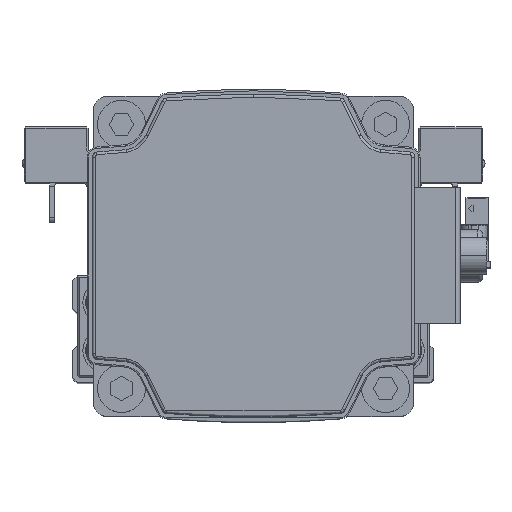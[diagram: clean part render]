
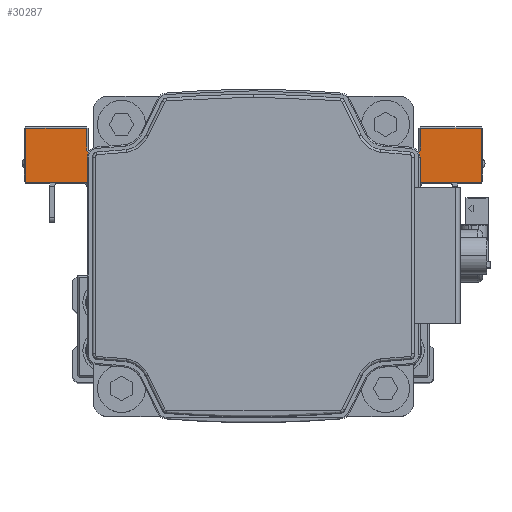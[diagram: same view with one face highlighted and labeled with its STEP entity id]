
A CAD part, top view. The second image highlights one B-rep face of the part: STEP entity #30287.
In plain terms, the highlighted planar face has unit normal (0, 0, 1) as drawn and (1, 0, 0) by its records, which use the part's own axes.
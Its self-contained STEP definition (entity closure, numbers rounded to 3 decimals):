
#102 = LINE ( 'NONE', #11761, #1827 ) ;
#753 = LINE ( 'NONE', #12408, #23281 ) ;
#791 = CARTESIAN_POINT ( 'NONE',  ( 25.5, 5.5, -17. ) ) ;
#990 = VERTEX_POINT ( 'NONE', #25991 ) ;
#1441 = VECTOR ( 'NONE', #35580, 1000. ) ;
#1827 = VECTOR ( 'NONE', #23399, 1000. ) ;
#2074 = DIRECTION ( 'NONE',  ( -1., 0., 0. ) ) ;
#2374 = CIRCLE ( 'NONE', #7272, 1.3 ) ;
#2646 = CARTESIAN_POINT ( 'NONE',  ( 25.5, 7.5, -15. ) ) ;
#2755 = CARTESIAN_POINT ( 'NONE',  ( 25.5, 7.5, 43. ) ) ;
#2804 = VERTEX_POINT ( 'NONE', #32855 ) ;
#3192 = VERTEX_POINT ( 'NONE', #4476 ) ;
#3206 = DIRECTION ( 'NONE',  ( 0., 0., -1. ) ) ;
#3332 = VERTEX_POINT ( 'NONE', #19944 ) ;
#3426 = CARTESIAN_POINT ( 'NONE',  ( 25.5, 17.7, 42.7 ) ) ;
#3746 = ORIENTED_EDGE ( 'NONE', *, *, #35170, .T. ) ;
#4098 = VERTEX_POINT ( 'NONE', #25708 ) ;
#4188 = ORIENTED_EDGE ( 'NONE', *, *, #12997, .T. ) ;
#4300 = ORIENTED_EDGE ( 'NONE', *, *, #22238, .F. ) ;
#4461 = AXIS2_PLACEMENT_3D ( 'NONE', #2646, #14301, #25926 ) ;
#4476 = CARTESIAN_POINT ( 'NONE',  ( 25.5, 17.7, -31.3 ) ) ;
#5105 = EDGE_CURVE ( 'NONE', #21484, #3192, #25002, .T. ) ;
#5158 = EDGE_CURVE ( 'NONE', #34535, #25210, #10830, .T. ) ;
#5199 = LINE ( 'NONE', #16845, #25664 ) ;
#5531 = EDGE_CURVE ( 'NONE', #35993, #990, #10786, .T. ) ;
#5885 = CARTESIAN_POINT ( 'NONE',  ( 25.5, 14., 31.3 ) ) ;
#6270 = EDGE_CURVE ( 'NONE', #3192, #3332, #12265, .T. ) ;
#6303 = EDGE_CURVE ( 'NONE', #2804, #19478, #16085, .T. ) ;
#6586 = EDGE_CURVE ( 'NONE', #21548, #21484, #37467, .T. ) ;
#6649 = LINE ( 'NONE', #18297, #32294 ) ;
#6751 = DIRECTION ( 'NONE',  ( -1., 0., 0. ) ) ;
#6757 = CARTESIAN_POINT ( 'NONE',  ( 25.5, -7.5, -15. ) ) ;
#7272 = AXIS2_PLACEMENT_3D ( 'NONE', #12946, #24568, #36254 ) ;
#7456 = CARTESIAN_POINT ( 'NONE',  ( 25.5, 17.7, -15. ) ) ;
#7764 = EDGE_CURVE ( 'NONE', #36918, #9062, #13361, .T. ) ;
#9062 = VERTEX_POINT ( 'NONE', #6757 ) ;
#9154 = EDGE_LOOP ( 'NONE', ( #3746, #9944, #13552, #36756, #35929, #32326, #31456, #16891, #14310, #31858, #17734, #4188, #26387, #20565, #4300, #30900 ) ) ;
#9502 = AXIS2_PLACEMENT_3D ( 'NONE', #32916, #6751, #18394 ) ;
#9944 = ORIENTED_EDGE ( 'NONE', *, *, #6586, .T. ) ;
#10511 = DIRECTION ( 'NONE',  ( 0., 0., 1. ) ) ;
#10786 = LINE ( 'NONE', #22432, #34042 ) ;
#10830 = CIRCLE ( 'NONE', #32197, 1.3 ) ;
#11268 = CARTESIAN_POINT ( 'NONE',  ( 25.5, 7.5, -42.7 ) ) ;
#11761 = CARTESIAN_POINT ( 'NONE',  ( 25.5, 7.5, -15. ) ) ;
#11845 = VECTOR ( 'NONE', #22902, 1000. ) ;
#12265 = LINE ( 'NONE', #23899, #1441 ) ;
#12408 = CARTESIAN_POINT ( 'NONE',  ( 25.5, 7.5, 15. ) ) ;
#12446 = DIRECTION ( 'NONE',  ( -1., 0., 0. ) ) ;
#12662 = VECTOR ( 'NONE', #10511, 1000. ) ;
#12946 = CARTESIAN_POINT ( 'NONE',  ( 25.5, 14., -30. ) ) ;
#12997 = EDGE_CURVE ( 'NONE', #15636, #19017, #25956, .T. ) ;
#13361 = LINE ( 'NONE', #24989, #22255 ) ;
#13478 = CARTESIAN_POINT ( 'NONE',  ( 25.5, 5.5, 15. ) ) ;
#13552 = ORIENTED_EDGE ( 'NONE', *, *, #5105, .T. ) ;
#13741 = DIRECTION ( 'NONE',  ( 0., 0., 1. ) ) ;
#14176 = CARTESIAN_POINT ( 'NONE',  ( 25.5, 17.7, 31.3 ) ) ;
#14301 = DIRECTION ( 'NONE',  ( -1., 0., 0. ) ) ;
#14310 = ORIENTED_EDGE ( 'NONE', *, *, #18127, .T. ) ;
#14406 = DIRECTION ( 'NONE',  ( 0., 0., -1. ) ) ;
#14542 = VERTEX_POINT ( 'NONE', #14176 ) ;
#15636 = VERTEX_POINT ( 'NONE', #36421 ) ;
#16085 = CIRCLE ( 'NONE', #37471, 2. ) ;
#16845 = CARTESIAN_POINT ( 'NONE',  ( 25.5, 12.7, 30. ) ) ;
#16891 = ORIENTED_EDGE ( 'NONE', *, *, #21086, .T. ) ;
#17165 = FACE_OUTER_BOUND ( 'NONE', #9154, .T. ) ;
#17725 = LINE ( 'NONE', #29369, #36195 ) ;
#17734 = ORIENTED_EDGE ( 'NONE', *, *, #31791, .T. ) ;
#18127 = EDGE_CURVE ( 'NONE', #14542, #35993, #33634, .T. ) ;
#18297 = CARTESIAN_POINT ( 'NONE',  ( 25.5, 7.5, 31.3 ) ) ;
#18394 = DIRECTION ( 'NONE',  ( 0., 0., 1. ) ) ;
#19017 = VERTEX_POINT ( 'NONE', #13478 ) ;
#19098 = DIRECTION ( 'NONE',  ( 0., 0., 1. ) ) ;
#19301 = CARTESIAN_POINT ( 'NONE',  ( 25.5, -7.5, 15. ) ) ;
#19478 = VERTEX_POINT ( 'NONE', #30923 ) ;
#19944 = CARTESIAN_POINT ( 'NONE',  ( 25.5, 14., -31.3 ) ) ;
#20565 = ORIENTED_EDGE ( 'NONE', *, *, #7764, .T. ) ;
#21086 = EDGE_CURVE ( 'NONE', #25210, #14542, #6649, .T. ) ;
#21162 = EDGE_CURVE ( 'NONE', #3332, #4098, #2374, .T. ) ;
#21404 = VECTOR ( 'NONE', #14406, 1000. ) ;
#21484 = VERTEX_POINT ( 'NONE', #33225 ) ;
#21548 = VERTEX_POINT ( 'NONE', #27846 ) ;
#22238 = EDGE_CURVE ( 'NONE', #2804, #9062, #102, .T. ) ;
#22255 = VECTOR ( 'NONE', #36689, 1000. ) ;
#22432 = CARTESIAN_POINT ( 'NONE',  ( 25.5, 7.5, 42.7 ) ) ;
#22902 = DIRECTION ( 'NONE',  ( 0., 1., 0. ) ) ;
#23281 = VECTOR ( 'NONE', #24037, 1000. ) ;
#23399 = DIRECTION ( 'NONE',  ( 0., -1., 0. ) ) ;
#23899 = CARTESIAN_POINT ( 'NONE',  ( 25.5, 7.5, -31.3 ) ) ;
#24037 = DIRECTION ( 'NONE',  ( 0., -1., 0. ) ) ;
#24072 = DIRECTION ( 'NONE',  ( 0., 0., 1. ) ) ;
#24568 = DIRECTION ( 'NONE',  ( -1., 0., 0. ) ) ;
#24989 = CARTESIAN_POINT ( 'NONE',  ( 25.5, -7.5, -15. ) ) ;
#25002 = LINE ( 'NONE', #36704, #12662 ) ;
#25210 = VERTEX_POINT ( 'NONE', #5885 ) ;
#25664 = VECTOR ( 'NONE', #28495, 1000. ) ;
#25708 = CARTESIAN_POINT ( 'NONE',  ( 25.5, 12.7, -30. ) ) ;
#25926 = DIRECTION ( 'NONE',  ( 0., 0., 1. ) ) ;
#25956 = CIRCLE ( 'NONE', #9502, 2. ) ;
#25991 = CARTESIAN_POINT ( 'NONE',  ( 25.5, 7.5, 42.7 ) ) ;
#26387 = ORIENTED_EDGE ( 'NONE', *, *, #36025, .T. ) ;
#27846 = CARTESIAN_POINT ( 'NONE',  ( 25.5, 7.5, -42.7 ) ) ;
#28244 = CARTESIAN_POINT ( 'NONE',  ( 25.5, 14., 30. ) ) ;
#28495 = DIRECTION ( 'NONE',  ( 0., 0., 1. ) ) ;
#28648 = VECTOR ( 'NONE', #19098, 1000. ) ;
#28807 = PLANE ( 'NONE',  #4461 ) ;
#28905 = LINE ( 'NONE', #2755, #21404 ) ;
#29369 = CARTESIAN_POINT ( 'NONE',  ( 25.5, 7.5, 43. ) ) ;
#29945 = DIRECTION ( 'NONE',  ( 0., 1., 0. ) ) ;
#30287 = ADVANCED_FACE ( 'NONE', ( #17165 ), #28807, .F. ) ;
#30900 = ORIENTED_EDGE ( 'NONE', *, *, #6303, .T. ) ;
#30923 = CARTESIAN_POINT ( 'NONE',  ( 25.5, 7.5, -17. ) ) ;
#31080 = CARTESIAN_POINT ( 'NONE',  ( 25.5, 12.7, 30. ) ) ;
#31456 = ORIENTED_EDGE ( 'NONE', *, *, #5158, .T. ) ;
#31791 = EDGE_CURVE ( 'NONE', #990, #15636, #17725, .T. ) ;
#31858 = ORIENTED_EDGE ( 'NONE', *, *, #5531, .T. ) ;
#32197 = AXIS2_PLACEMENT_3D ( 'NONE', #28244, #2074, #13741 ) ;
#32294 = VECTOR ( 'NONE', #29945, 1000. ) ;
#32326 = ORIENTED_EDGE ( 'NONE', *, *, #35342, .T. ) ;
#32855 = CARTESIAN_POINT ( 'NONE',  ( 25.5, 5.5, -15. ) ) ;
#32916 = CARTESIAN_POINT ( 'NONE',  ( 25.5, 5.5, 17. ) ) ;
#33225 = CARTESIAN_POINT ( 'NONE',  ( 25.5, 17.7, -42.7 ) ) ;
#33634 = LINE ( 'NONE', #7456, #28648 ) ;
#34042 = VECTOR ( 'NONE', #34100, 1000. ) ;
#34100 = DIRECTION ( 'NONE',  ( 0., -1., 0. ) ) ;
#34535 = VERTEX_POINT ( 'NONE', #31080 ) ;
#35170 = EDGE_CURVE ( 'NONE', #19478, #21548, #28905, .T. ) ;
#35342 = EDGE_CURVE ( 'NONE', #4098, #34535, #5199, .T. ) ;
#35580 = DIRECTION ( 'NONE',  ( 0., -1., 0. ) ) ;
#35929 = ORIENTED_EDGE ( 'NONE', *, *, #21162, .T. ) ;
#35993 = VERTEX_POINT ( 'NONE', #3426 ) ;
#36025 = EDGE_CURVE ( 'NONE', #19017, #36918, #753, .T. ) ;
#36195 = VECTOR ( 'NONE', #3206, 1000. ) ;
#36254 = DIRECTION ( 'NONE',  ( 0., 0., 1. ) ) ;
#36421 = CARTESIAN_POINT ( 'NONE',  ( 25.5, 7.5, 17. ) ) ;
#36689 = DIRECTION ( 'NONE',  ( 0., 0., -1. ) ) ;
#36704 = CARTESIAN_POINT ( 'NONE',  ( 25.5, 17.7, -15. ) ) ;
#36756 = ORIENTED_EDGE ( 'NONE', *, *, #6270, .T. ) ;
#36918 = VERTEX_POINT ( 'NONE', #19301 ) ;
#37467 = LINE ( 'NONE', #11268, #11845 ) ;
#37471 = AXIS2_PLACEMENT_3D ( 'NONE', #791, #12446, #24072 ) ;
